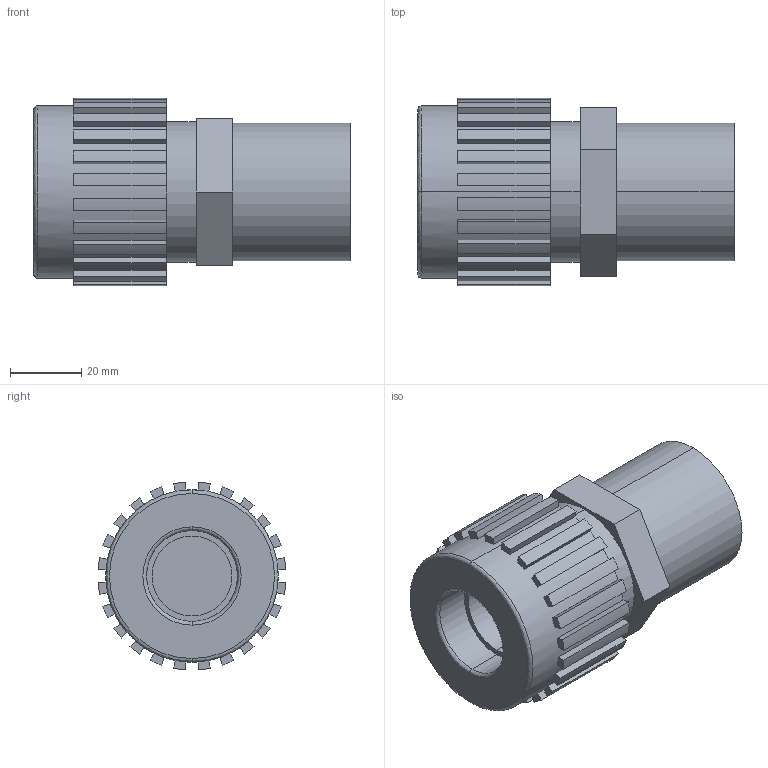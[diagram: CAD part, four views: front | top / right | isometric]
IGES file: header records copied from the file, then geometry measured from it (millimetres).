
Start section: SolidWorks IGES file using analytic representation for surfaces
Global section: file name: S:\Product Visuals\Pumps to be Defeatured\140 fittings\FITTING ASSEMBLIES\DEFEATURED\16-s-300.IGS; native system: SolidWorks 2012; preprocessor: SolidWorks 2012; author: rachel.dressel; date: 121203.113059; units: inch
Bounding box: 88.96 x 52.72 x 52.72 mm (x, y, z)
Volume: 121621.8 mm3; surface area: 22451.8 mm2
Topology: 1 solids, 1 shells, 123 faces, 344 edges, 228 vertices
Faces by surface type: plane 85, revolution 38
